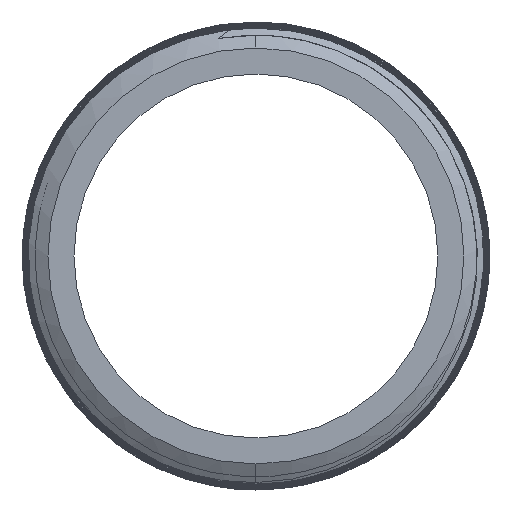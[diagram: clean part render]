
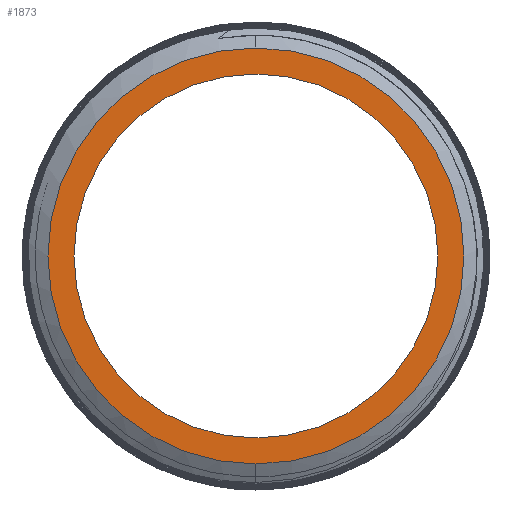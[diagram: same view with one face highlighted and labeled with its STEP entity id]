
A CAD part, left-side view. The second image highlights one B-rep face of the part: STEP entity #1873.
In plain terms, the highlighted planar face has unit normal (-1, 0, 0).
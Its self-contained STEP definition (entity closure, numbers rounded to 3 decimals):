
#103 = EDGE_LOOP ( 'NONE', ( #4242, #7202 ) ) ;
#224 = CARTESIAN_POINT ( 'NONE',  ( -50., 5.25, 0. ) ) ;
#555 = AXIS2_PLACEMENT_3D ( 'NONE', #5280, #7906, #10316 ) ;
#823 = DIRECTION ( 'NONE',  ( 0., 0., 1. ) ) ;
#1137 = EDGE_CURVE ( 'NONE', #9567, #1603, #8753, .T. ) ;
#1264 = FACE_OUTER_BOUND ( 'NONE', #4875, .T. ) ;
#1603 = VERTEX_POINT ( 'NONE', #3125 ) ;
#1732 = CARTESIAN_POINT ( 'NONE',  ( -50., 0., 6. ) ) ;
#1873 = ADVANCED_FACE ( 'NONE', ( #7865, #1264 ), #10328, .F. ) ;
#2087 = DIRECTION ( 'NONE',  ( -1., 0., 0. ) ) ;
#2557 = VERTEX_POINT ( 'NONE', #1732 ) ;
#3125 = CARTESIAN_POINT ( 'NONE',  ( -50., 0., 5.25 ) ) ;
#3231 = AXIS2_PLACEMENT_3D ( 'NONE', #8239, #4794, #823 ) ;
#3752 = CARTESIAN_POINT ( 'NONE',  ( -50., 0., 0. ) ) ;
#3866 = AXIS2_PLACEMENT_3D ( 'NONE', #4470, #7760, #6166 ) ;
#4242 = ORIENTED_EDGE ( 'NONE', *, *, #7791, .F. ) ;
#4470 = CARTESIAN_POINT ( 'NONE',  ( -50., 0., 0. ) ) ;
#4784 = CIRCLE ( 'NONE', #555, 6. ) ;
#4794 = DIRECTION ( 'NONE',  ( -1., 0., 0. ) ) ;
#4875 = EDGE_LOOP ( 'NONE', ( #5119, #6581 ) ) ;
#5119 = ORIENTED_EDGE ( 'NONE', *, *, #9401, .T. ) ;
#5210 = AXIS2_PLACEMENT_3D ( 'NONE', #224, #5291, #7093 ) ;
#5280 = CARTESIAN_POINT ( 'NONE',  ( -50., 0., 0. ) ) ;
#5291 = DIRECTION ( 'NONE',  ( 1., 0., 0. ) ) ;
#5503 = DIRECTION ( 'NONE',  ( 0., 0., 1. ) ) ;
#5865 = CARTESIAN_POINT ( 'NONE',  ( -50., 0., -6. ) ) ;
#6166 = DIRECTION ( 'NONE',  ( 0., 0., 1. ) ) ;
#6581 = ORIENTED_EDGE ( 'NONE', *, *, #7932, .T. ) ;
#7093 = DIRECTION ( 'NONE',  ( 0., 0., -1. ) ) ;
#7202 = ORIENTED_EDGE ( 'NONE', *, *, #1137, .F. ) ;
#7234 = CARTESIAN_POINT ( 'NONE',  ( -50., 0., -5.25 ) ) ;
#7760 = DIRECTION ( 'NONE',  ( -1., 0., 0. ) ) ;
#7791 = EDGE_CURVE ( 'NONE', #1603, #9567, #10759, .T. ) ;
#7865 = FACE_BOUND ( 'NONE', #103, .T. ) ;
#7906 = DIRECTION ( 'NONE',  ( -1., 0., 0. ) ) ;
#7932 = EDGE_CURVE ( 'NONE', #2557, #9836, #7962, .T. ) ;
#7962 = CIRCLE ( 'NONE', #3231, 6. ) ;
#8239 = CARTESIAN_POINT ( 'NONE',  ( -50., 0., 0. ) ) ;
#8753 = CIRCLE ( 'NONE', #3866, 5.25 ) ;
#9401 = EDGE_CURVE ( 'NONE', #9836, #2557, #4784, .T. ) ;
#9567 = VERTEX_POINT ( 'NONE', #7234 ) ;
#9836 = VERTEX_POINT ( 'NONE', #5865 ) ;
#10234 = AXIS2_PLACEMENT_3D ( 'NONE', #3752, #2087, #5503 ) ;
#10316 = DIRECTION ( 'NONE',  ( 0., 0., 1. ) ) ;
#10328 = PLANE ( 'NONE',  #5210 ) ;
#10759 = CIRCLE ( 'NONE', #10234, 5.25 ) ;
